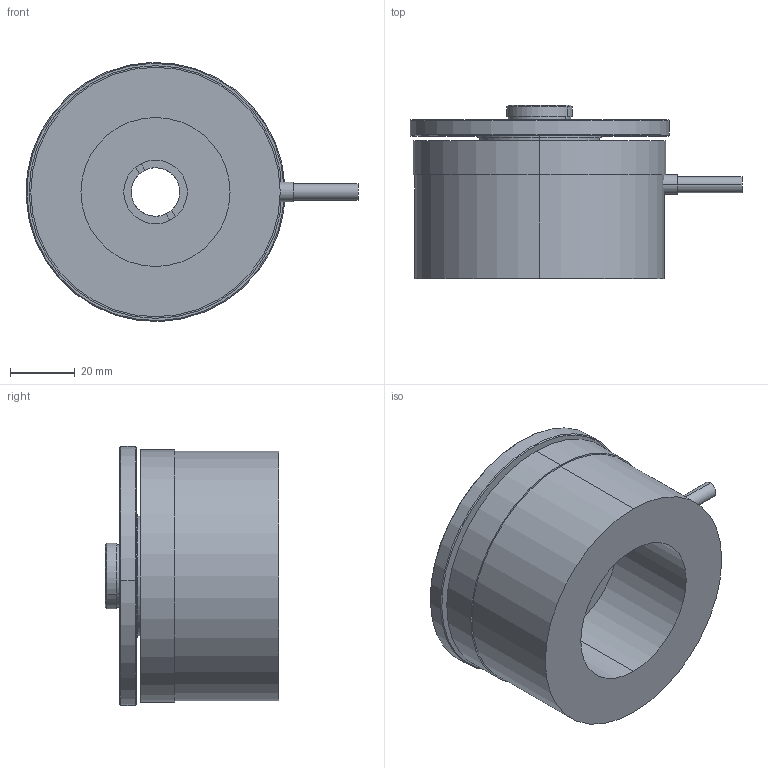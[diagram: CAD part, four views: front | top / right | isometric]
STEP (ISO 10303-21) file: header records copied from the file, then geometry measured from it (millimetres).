
FILE_DESCRIPTION (( 'STEP AP203' ), '1' );
FILE_NAME ('P76.Z80带转接件（上RMS下RMS螺纹）三维图2024.08.12.STEP', '2024-08-12T02:49:28', ( '微软用户' ), ( '微软中国' ), 'SwSTEP 2.0', 'SolidWorks 2016', '' );
FILE_SCHEMA (( 'CONFIG_CONTROL_DESIGN' ));
Length unit declared in the file: millimetre
Products named in the file (4): P76俋窒蹟恇蛌諉B_P76.Z80; P76.Z80带转接件（上RMS下RMS螺纹）三维图2024.08.12; P76标准尺寸三维图_P76.Z80-W0.8*1-36"; P76俋窒蹟恇蛌諉A_(N)W0.8*1-36"-(D)15
Assembly tree (3 placements, depth 2):
  P76.Z80带转接件（上RMS下RMS螺纹）三维图2024.08.12
    P76标准尺寸三维图_P76.Z80-W0.8*1-36"
    P76俋窒蹟恇蛌諉A_(N)W0.8*1-36"-(D)15
    P76俋窒蹟恇蛌諉B_P76.Z80
Bounding box: 102.48 x 53.5 x 79.95 mm (x, y, z)
Volume: 164063.3 mm3; surface area: 40822 mm2
Topology: 4 solids, 4 shells, 75 faces, 163 edges, 106 vertices
Faces by surface type: cylinder 39, plane 28, cone 8
Entity records: 2511 total; most frequent: DIRECTION 419, CARTESIAN_POINT 350, ORIENTED_EDGE 326, AXIS2_PLACEMENT_3D 175, EDGE_CURVE 163, VERTEX_POINT 106, CIRCLE 94, EDGE_LOOP 91
